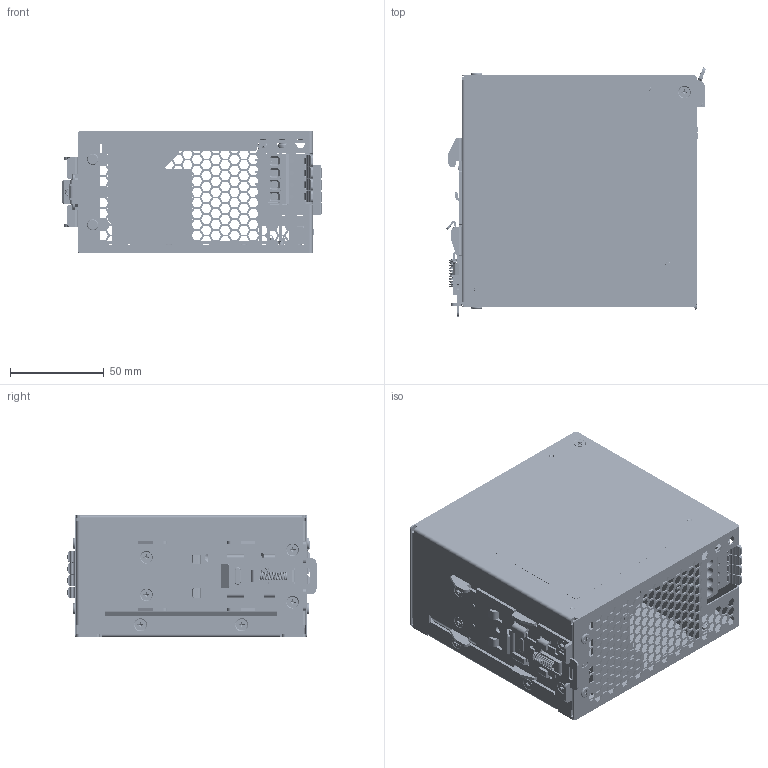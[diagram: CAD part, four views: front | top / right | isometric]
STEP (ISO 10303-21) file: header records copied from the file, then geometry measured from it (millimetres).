
FILE_DESCRIPTION((''),'2;1');
FILE_NAME('DRF-48V480W3GTA_ASM','2024-08-06T',('Nut.Phor'),(''),'CREO PARAMETRIC BY PTC INC, 2015080','CREO PARAMETRIC BY PTC INC, 2015080','');
FILE_SCHEMA(('CONFIG_CONTROL_DESIGN'));
Products named in the file (99): 337555910000_55_1_1; 337555910000_55_2_1; 337555910000_55_3_1; 337555910000_55_ASM_1_ASM; 337555910000-STUD_6-32_3MM_27_1; 337555910000-STUD_6-32_NORMAL_2; 337555910000_ASM_139_ASM_1_ASM; 3240030TPS01_75_1_1; 3240030TPS01_75_2_1; 3240030TPS01_75_3_1; 3240030TPS01_75_ASM_1_ASM; ADC-127_168_1; ADC-180_HSK2MM_200_1; 334821140000_BODY_532_1; 334821140000_A_C098_CIM_14_1; 334821140000_ASM_215_ASM_1_ASM; HSK1_2MM_ASM_930_ASM_1_ASM; 31052637XX_1_1; ADC-128_240_1; LAYOUT_ADC-179_348_1; 3467587200_BUS_SPCC_24_1; 3074842534_A2003WR0-1AGX4PA-6T_; 3074843834_A2003WR0-1AGX2PA-6T_; MSBR-16_1_2_1_1; MSBR-15_1_2_1_1; MSBR-14_1_2_1_1; MSBR-13_1_2_1_1; MSBR-12_1_2_1_1; MSBR-11_1_2_1_1; MSBR-10_1_2_AF0_1_1; MSBR-9_1_2_AF0_1_1; MSBR-8_1_2_AF0_1_1; MSBR-7_1_2_1_1; MSBR-6_1_2_1_1; MSBR-5_1_2_1_1; MSBR-3_1_2_AF0_1_1; MSBR-2_1_2_AF0_1_1; MSBR-1_1_2_AF0_1_1; MSBR-2_1_2_AF1_1_1; MSBR-8_1_2_AF1_1_1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
Assembly tree (136 placements, depth 8):
  DRF-48V480W3GTA_ASM
    DRF-48V480W3GTA_ASM_3_ASM
      337555910000_ASM_139_ASM_1_ASM
        337555910000_55_ASM_1_ASM
          337555910000_55_1_1
          337555910000_55_2_1
          337555910000_55_3_1
        337555910000-STUD_6-32_3MM_27_1  x2
        337555910000-STUD_6-32_NORMAL_2
      3240030TPS01_75_ASM_1_ASM
        3240030TPS01_75_1_1
        3240030TPS01_75_2_1
        3240030TPS01_75_3_1
      ASSY_ADC-180_ASM_3354_ASM_1_ASM
        ADC-127_168_1
        ADC-180_HSK2MM_200_1
        HSK1_2MM_ASM_930_ASM_1_ASM
          334821140000_ASM_215_ASM_1_ASM
            334821140000_BODY_532_1
            334821140000_A_C098_CIM_14_1
        31052637XX_1_1
        ASSY-ADC-179_ASM_3135_ASM_1_ASM
          ADC-128_240_1
          LAYOUT_ADC-179_348_1
          3467587200_BUS_SPCC_24_1
          3074842534_A2003WR0-1AGX4PA-6T_
          3074843834_A2003WR0-1AGX2PA-6T_  x3
          307036791G_4PIN_ASM_14_ASM_1_ASM
            MSBR-16_1_2_1_1
            MSBR-15_1_2_1_1  x2
            MSBR-14_1_2_1_1
            MSBR-13_1_2_1_1
            MSBR-12_1_2_1_1  x2
            MSBR-11_1_2_1_1
            MSBR-10_1_2_AF0_1_1
            MSBR-9_1_2_AF0_1_1
            MSBR-8_1_2_AF0_1_1
            MSBR-7_1_2_1_1
            MSBR-6_1_2_1_1  x2
            MSBR-5_1_2_1_1
            MSBR-3_1_2_AF0_1_1
            MSBR-2_1_2_AF0_1_1
            MSBR-1_1_2_AF0_1_1
            MSBR-2_1_2_AF1_1_1
            MSBR-8_1_2_AF1_1_1
            MSBR-4_1_2_AF0_1_1
        ASSY_ADC-188_ASM_644_ASM_1_ASM
          ADC-131_13_1
          LAYOUT_ADC-188_97_1
          307195156G_CN62_ASM_122_ASM_1_ASM
            307195156G_A1_12_1
            307195156G_A2_AF0_23_1
          3460375301-V3_1_1
          3470422400_1_1  x2
          3240027TPS00_59_1
          3074842634_A2003WR0-1AGX6PA-6T_
          CH81082HA86-NH-20211222_ASM_NEW_ASM
            CH81082HA86-NH-20211222_ASM_AF0_ASM
              CH81082HA86-NH-20211222_ANY_AF0_ASM
                CH81-TH2_86__ANY_1_1_1  x4
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Bounding box: 138.49 x 132.95 x 65.05 mm (x, y, z)
Volume: 171480.2 mm3; surface area: 106163.1 mm2
Topology: 134 solids, 144 shells, 18413 faces, 49612 edges, 32003 vertices
Faces by surface type: plane 11034, cylinder 4642, cone 952, bspline 768, torus 660, extrusion 341, sphere 16
Entity records: 533999 total; most frequent: CARTESIAN_POINT 120032, ORIENTED_EDGE 65758, DIRECTION 61603, EDGE_CURVE 32879, VECTOR 24605, LINE 24277, PRESENTATION_STYLE_ASSIGNMENT 24269, STYLED_ITEM 22246
